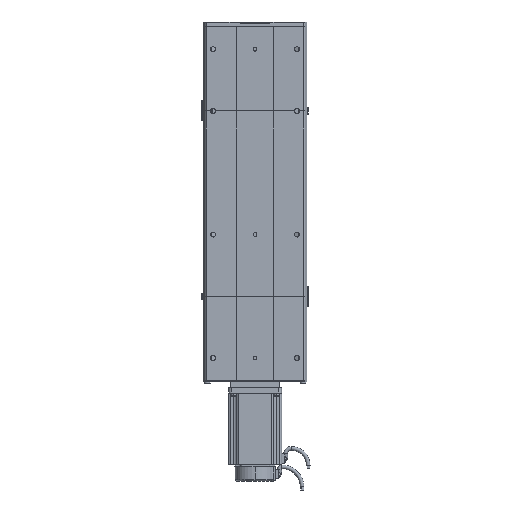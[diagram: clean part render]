
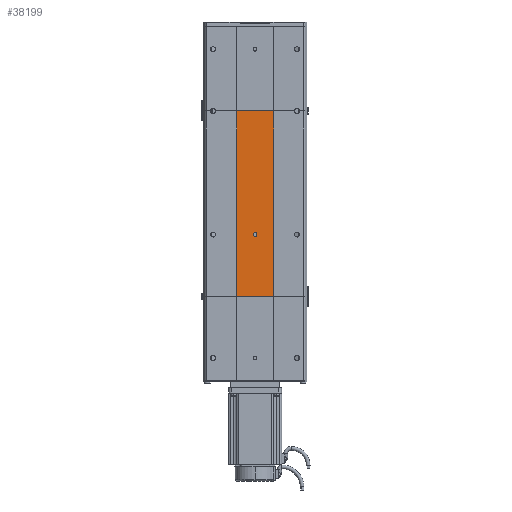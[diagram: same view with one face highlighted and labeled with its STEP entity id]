
A CAD part, front view. The second image highlights one B-rep face of the part: STEP entity #38199.
In plain terms, the highlighted planar face has unit normal (0, -1, 0).
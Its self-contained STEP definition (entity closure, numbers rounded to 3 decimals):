
#6590 = AXIS2_PLACEMENT_3D ( 'NONE', #6701, #6658, #6644 ) ;
#6593 = DIRECTION ( 'NONE',  ( -1., 0., 0. ) ) ;
#6594 = VECTOR ( 'NONE', #6593, 1000. ) ;
#6595 = CARTESIAN_POINT ( 'NONE',  ( -30., -32.5, 300. ) ) ;
#6605 = CARTESIAN_POINT ( 'NONE',  ( 30., -32.5, 300. ) ) ;
#6606 = CARTESIAN_POINT ( 'NONE',  ( 0., -32.5, 103. ) ) ;
#6633 = LINE ( 'NONE', #6595, #6594 ) ;
#6644 = DIRECTION ( 'NONE',  ( 0., 0., -1. ) ) ;
#6657 = CARTESIAN_POINT ( 'NONE',  ( 0., -32.5, 97. ) ) ;
#6658 = DIRECTION ( 'NONE',  ( 0., -1., 0. ) ) ;
#6701 = CARTESIAN_POINT ( 'NONE',  ( 0., -32.5, 100. ) ) ;
#6706 = CIRCLE ( 'NONE', #6590, 3. ) ;
#6905 = CARTESIAN_POINT ( 'NONE',  ( -30., -32.5, 300. ) ) ;
#23642 = EDGE_CURVE ( 'NONE', #23702, #23883, #6633, .T. ) ;
#23676 = EDGE_CURVE ( 'NONE', #23695, #23679, #6706, .T. ) ;
#23679 = VERTEX_POINT ( 'NONE', #6657 ) ;
#23695 = VERTEX_POINT ( 'NONE', #6606 ) ;
#23702 = VERTEX_POINT ( 'NONE', #6605 ) ;
#23883 = VERTEX_POINT ( 'NONE', #6905 ) ;
#36313 = DIRECTION ( 'NONE',  ( 0., 0., 1. ) ) ;
#36315 = VECTOR ( 'NONE', #36313, 1000. ) ;
#37475 = CARTESIAN_POINT ( 'NONE',  ( -30., -32.5, 0. ) ) ;
#37477 = LINE ( 'NONE', #37475, #36315 ) ;
#37532 = DIRECTION ( 'NONE',  ( 0., 0., 1. ) ) ;
#37533 = CARTESIAN_POINT ( 'NONE',  ( 30., -32.5, 0. ) ) ;
#37535 = LINE ( 'NONE', #37533, #37687 ) ;
#37541 = DIRECTION ( 'NONE',  ( 0., 0., -1. ) ) ;
#37542 = DIRECTION ( 'NONE',  ( 0., -1., 0. ) ) ;
#37544 = CARTESIAN_POINT ( 'NONE',  ( 0., -32.5, 100. ) ) ;
#37546 = AXIS2_PLACEMENT_3D ( 'NONE', #37544, #37542, #37541 ) ;
#37555 = CIRCLE ( 'NONE', #37546, 3. ) ;
#37557 = CARTESIAN_POINT ( 'NONE',  ( -30., -32.5, 0. ) ) ;
#37600 = DIRECTION ( 'NONE',  ( 0., 0., 1. ) ) ;
#37602 = DIRECTION ( 'NONE',  ( 0., 1., 0. ) ) ;
#37607 = FACE_OUTER_BOUND ( 'NONE', #38221, .T. ) ;
#37635 = AXIS2_PLACEMENT_3D ( 'NONE', #37658, #37602, #37600 ) ;
#37640 = PLANE ( 'NONE',  #37635 ) ;
#37651 = FACE_BOUND ( 'NONE', #38213, .T. ) ;
#37658 = CARTESIAN_POINT ( 'NONE',  ( -30., -32.5, 0. ) ) ;
#37687 = VECTOR ( 'NONE', #37532, 1000. ) ;
#38113 = ORIENTED_EDGE ( 'NONE', *, *, #38116, .F. ) ;
#38115 = ORIENTED_EDGE ( 'NONE', *, *, #38219, .F. ) ;
#38116 = EDGE_CURVE ( 'NONE', #23679, #23695, #37555, .T. ) ;
#38120 = ORIENTED_EDGE ( 'NONE', *, *, #38125, .T. ) ;
#38122 = ORIENTED_EDGE ( 'NONE', *, *, #38502, .F. ) ;
#38125 = EDGE_CURVE ( 'NONE', #38468, #23702, #37535, .T. ) ;
#38142 = VERTEX_POINT ( 'NONE', #37557 ) ;
#38196 = ORIENTED_EDGE ( 'NONE', *, *, #23642, .T. ) ;
#38199 = ADVANCED_FACE ( 'NONE', ( #37651, #37607 ), #37640, .F. ) ;
#38200 = ORIENTED_EDGE ( 'NONE', *, *, #23676, .F. ) ;
#38213 = EDGE_LOOP ( 'NONE', ( #38113, #38200 ) ) ;
#38219 = EDGE_CURVE ( 'NONE', #38142, #23883, #37477, .T. ) ;
#38221 = EDGE_LOOP ( 'NONE', ( #38196, #38115, #38122, #38120 ) ) ;
#38468 = VERTEX_POINT ( 'NONE', #38601 ) ;
#38502 = EDGE_CURVE ( 'NONE', #38468, #38142, #38954, .T. ) ;
#38601 = CARTESIAN_POINT ( 'NONE',  ( 30., -32.5, 0. ) ) ;
#38904 = DIRECTION ( 'NONE',  ( -1., 0., 0. ) ) ;
#38905 = VECTOR ( 'NONE', #38904, 1000. ) ;
#38907 = CARTESIAN_POINT ( 'NONE',  ( -30., -32.5, 0. ) ) ;
#38954 = LINE ( 'NONE', #38907, #38905 ) ;
